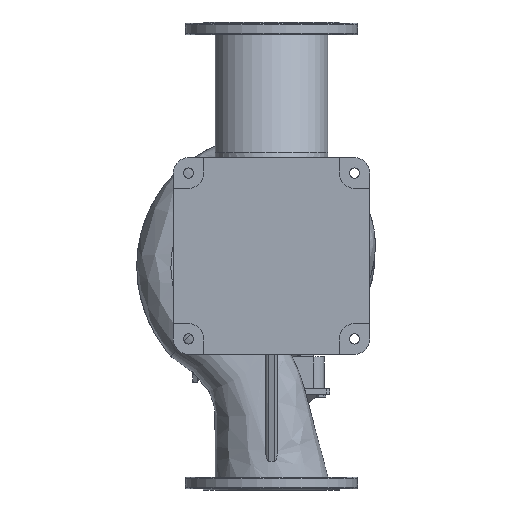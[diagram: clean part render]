
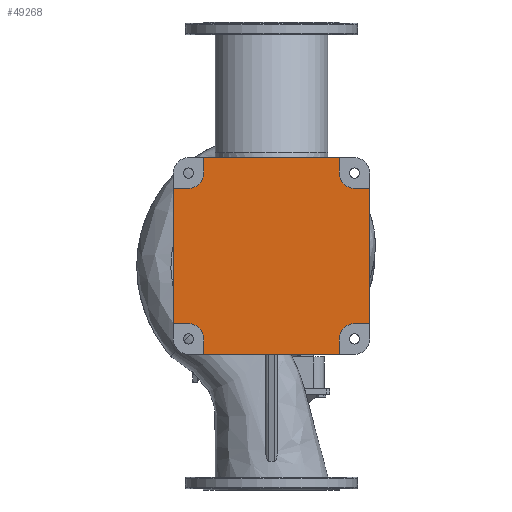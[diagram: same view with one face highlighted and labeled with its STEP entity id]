
A CAD part, front view. The second image highlights one B-rep face of the part: STEP entity #49268.
In plain terms, the highlighted planar face has unit normal (0, -1, 0).
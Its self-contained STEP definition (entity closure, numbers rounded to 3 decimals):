
#39 = CARTESIAN_POINT ( 'NONE',  ( -195., -295., 195. ) ) ;
#340 = DIRECTION ( 'NONE',  ( 0., 0., -1. ) ) ;
#499 = ORIENTED_EDGE ( 'NONE', *, *, #36492, .T. ) ;
#745 = LINE ( 'NONE', #54891, #11259 ) ;
#934 = VERTEX_POINT ( 'NONE', #48178 ) ;
#1391 = CARTESIAN_POINT ( 'NONE',  ( -159., -295., 195. ) ) ;
#1758 = VERTEX_POINT ( 'NONE', #56057 ) ;
#2570 = CARTESIAN_POINT ( 'NONE',  ( -195., -295., -159. ) ) ;
#3009 = EDGE_CURVE ( 'NONE', #41840, #21774, #10824, .T. ) ;
#3875 = CARTESIAN_POINT ( 'NONE',  ( 195., -295., 159. ) ) ;
#4035 = ORIENTED_EDGE ( 'NONE', *, *, #52931, .T. ) ;
#5711 = DIRECTION ( 'NONE',  ( 0., 0., 1. ) ) ;
#6484 = ORIENTED_EDGE ( 'NONE', *, *, #22947, .T. ) ;
#6561 = VECTOR ( 'NONE', #16383, 1000. ) ;
#7406 = VECTOR ( 'NONE', #56355, 1000. ) ;
#7668 = AXIS2_PLACEMENT_3D ( 'NONE', #39, #12871, #66692 ) ;
#8424 = LINE ( 'NONE', #61824, #7406 ) ;
#8876 = VECTOR ( 'NONE', #52955, 1000. ) ;
#9402 = LINE ( 'NONE', #56181, #6561 ) ;
#10091 = LINE ( 'NONE', #3875, #31673 ) ;
#10248 = DIRECTION ( 'NONE',  ( 1., 0., 0. ) ) ;
#10824 = LINE ( 'NONE', #17054, #44365 ) ;
#11245 = CARTESIAN_POINT ( 'NONE',  ( 159., -295., -231. ) ) ;
#11259 = VECTOR ( 'NONE', #340, 1000. ) ;
#11502 = LINE ( 'NONE', #11906, #12051 ) ;
#11906 = CARTESIAN_POINT ( 'NONE',  ( -195., -295., 159. ) ) ;
#12051 = VECTOR ( 'NONE', #66091, 1000. ) ;
#12777 = CARTESIAN_POINT ( 'NONE',  ( -159., -295., -195. ) ) ;
#12871 = DIRECTION ( 'NONE',  ( 0., 1., 0. ) ) ;
#13618 = LINE ( 'NONE', #37398, #16286 ) ;
#14595 = CARTESIAN_POINT ( 'NONE',  ( 159., -295., 195. ) ) ;
#15241 = VERTEX_POINT ( 'NONE', #68410 ) ;
#15699 = ORIENTED_EDGE ( 'NONE', *, *, #46932, .T. ) ;
#16286 = VECTOR ( 'NONE', #61171, 1000. ) ;
#16383 = DIRECTION ( 'NONE',  ( 0., 0., -1. ) ) ;
#16503 = PLANE ( 'NONE',  #29481 ) ;
#16683 = AXIS2_PLACEMENT_3D ( 'NONE', #70964, #46793, #17543 ) ;
#17054 = CARTESIAN_POINT ( 'NONE',  ( 159., -295., 195. ) ) ;
#17543 = DIRECTION ( 'NONE',  ( 0., 0., 1. ) ) ;
#18687 = EDGE_CURVE ( 'NONE', #64090, #71915, #57495, .T. ) ;
#20024 = VERTEX_POINT ( 'NONE', #73127 ) ;
#20859 = DIRECTION ( 'NONE',  ( 1., 0., 0. ) ) ;
#21774 = VERTEX_POINT ( 'NONE', #57305 ) ;
#22272 = VERTEX_POINT ( 'NONE', #58028 ) ;
#22315 = LINE ( 'NONE', #46859, #23065 ) ;
#22725 = DIRECTION ( 'NONE',  ( 0., 1., 0. ) ) ;
#22889 = DIRECTION ( 'NONE',  ( 0., 0., 1. ) ) ;
#22947 = EDGE_CURVE ( 'NONE', #21774, #72008, #33949, .T. ) ;
#23065 = VECTOR ( 'NONE', #10248, 1000. ) ;
#24251 = ORIENTED_EDGE ( 'NONE', *, *, #60638, .T. ) ;
#27628 = VERTEX_POINT ( 'NONE', #1391 ) ;
#28009 = DIRECTION ( 'NONE',  ( -1., 0., 0. ) ) ;
#28025 = EDGE_CURVE ( 'NONE', #30332, #44078, #8424, .T. ) ;
#28863 = ORIENTED_EDGE ( 'NONE', *, *, #59876, .T. ) ;
#29481 = AXIS2_PLACEMENT_3D ( 'NONE', #57842, #22725, #51225 ) ;
#29997 = DIRECTION ( 'NONE',  ( 0., 0., -1. ) ) ;
#30332 = VERTEX_POINT ( 'NONE', #67911 ) ;
#30730 = EDGE_CURVE ( 'NONE', #44078, #32994, #68566, .T. ) ;
#31673 = VECTOR ( 'NONE', #28009, 1000. ) ;
#32668 = EDGE_CURVE ( 'NONE', #15241, #47989, #22315, .T. ) ;
#32994 = VERTEX_POINT ( 'NONE', #58472 ) ;
#33276 = FACE_OUTER_BOUND ( 'NONE', #69984, .T. ) ;
#33752 = ORIENTED_EDGE ( 'NONE', *, *, #52943, .T. ) ;
#33949 = LINE ( 'NONE', #63608, #8876 ) ;
#34498 = CIRCLE ( 'NONE', #59398, 36. ) ;
#34535 = CARTESIAN_POINT ( 'NONE',  ( 195., -295., -195. ) ) ;
#34982 = ORIENTED_EDGE ( 'NONE', *, *, #32668, .T. ) ;
#36225 = ORIENTED_EDGE ( 'NONE', *, *, #52307, .T. ) ;
#36259 = ORIENTED_EDGE ( 'NONE', *, *, #44601, .T. ) ;
#36262 = CARTESIAN_POINT ( 'NONE',  ( -159., -295., 195. ) ) ;
#36492 = EDGE_CURVE ( 'NONE', #934, #64090, #9402, .T. ) ;
#37398 = CARTESIAN_POINT ( 'NONE',  ( 159., -295., -195. ) ) ;
#37970 = VECTOR ( 'NONE', #20859, 1000. ) ;
#38160 = DIRECTION ( 'NONE',  ( 0., 0., 1. ) ) ;
#40345 = EDGE_CURVE ( 'NONE', #60072, #15241, #745, .T. ) ;
#41840 = VERTEX_POINT ( 'NONE', #14595 ) ;
#43520 = CARTESIAN_POINT ( 'NONE',  ( -159., -295., 231. ) ) ;
#44065 = VECTOR ( 'NONE', #38160, 1000. ) ;
#44078 = VERTEX_POINT ( 'NONE', #44807 ) ;
#44365 = VECTOR ( 'NONE', #22889, 1000. ) ;
#44601 = EDGE_CURVE ( 'NONE', #22272, #30332, #34498, .T. ) ;
#44807 = CARTESIAN_POINT ( 'NONE',  ( 231., -295., -159. ) ) ;
#46525 = CARTESIAN_POINT ( 'NONE',  ( -195., -295., -195. ) ) ;
#46793 = DIRECTION ( 'NONE',  ( 0., 1., 0. ) ) ;
#46859 = CARTESIAN_POINT ( 'NONE',  ( 159., -295., -231. ) ) ;
#46932 = EDGE_CURVE ( 'NONE', #27628, #20024, #64918, .T. ) ;
#47989 = VERTEX_POINT ( 'NONE', #11245 ) ;
#48092 = ORIENTED_EDGE ( 'NONE', *, *, #75163, .T. ) ;
#48178 = CARTESIAN_POINT ( 'NONE',  ( -231., -295., 159. ) ) ;
#48303 = ORIENTED_EDGE ( 'NONE', *, *, #18687, .T. ) ;
#49268 = ADVANCED_FACE ( 'NONE', ( #33276 ), #16503, .F. ) ;
#50224 = CARTESIAN_POINT ( 'NONE',  ( 231., -295., 159. ) ) ;
#50302 = CIRCLE ( 'NONE', #16683, 36. ) ;
#50646 = ORIENTED_EDGE ( 'NONE', *, *, #3009, .T. ) ;
#51225 = DIRECTION ( 'NONE',  ( 1., 0., 0. ) ) ;
#52307 = EDGE_CURVE ( 'NONE', #20024, #934, #11502, .T. ) ;
#52931 = EDGE_CURVE ( 'NONE', #72008, #27628, #59271, .T. ) ;
#52943 = EDGE_CURVE ( 'NONE', #1758, #41840, #50302, .T. ) ;
#52955 = DIRECTION ( 'NONE',  ( -1., 0., 0. ) ) ;
#54891 = CARTESIAN_POINT ( 'NONE',  ( -159., -295., -195. ) ) ;
#54898 = ORIENTED_EDGE ( 'NONE', *, *, #28025, .T. ) ;
#56057 = CARTESIAN_POINT ( 'NONE',  ( 195., -295., 159. ) ) ;
#56181 = CARTESIAN_POINT ( 'NONE',  ( -231., -295., -159. ) ) ;
#56355 = DIRECTION ( 'NONE',  ( 1., 0., 0. ) ) ;
#57305 = CARTESIAN_POINT ( 'NONE',  ( 159., -295., 231. ) ) ;
#57495 = LINE ( 'NONE', #2570, #37970 ) ;
#57842 = CARTESIAN_POINT ( 'NONE',  ( -195., -295., -195. ) ) ;
#58028 = CARTESIAN_POINT ( 'NONE',  ( 159., -295., -195. ) ) ;
#58472 = CARTESIAN_POINT ( 'NONE',  ( 231., -295., 159. ) ) ;
#59271 = LINE ( 'NONE', #36262, #61489 ) ;
#59398 = AXIS2_PLACEMENT_3D ( 'NONE', #34535, #77052, #5711 ) ;
#59876 = EDGE_CURVE ( 'NONE', #32994, #1758, #10091, .T. ) ;
#60072 = VERTEX_POINT ( 'NONE', #12777 ) ;
#60357 = ORIENTED_EDGE ( 'NONE', *, *, #40345, .T. ) ;
#60638 = EDGE_CURVE ( 'NONE', #71915, #60072, #75211, .T. ) ;
#60671 = CARTESIAN_POINT ( 'NONE',  ( -195., -295., -159. ) ) ;
#61171 = DIRECTION ( 'NONE',  ( 0., 0., 1. ) ) ;
#61489 = VECTOR ( 'NONE', #29997, 1000. ) ;
#61824 = CARTESIAN_POINT ( 'NONE',  ( 195., -295., -159. ) ) ;
#63608 = CARTESIAN_POINT ( 'NONE',  ( -159., -295., 231. ) ) ;
#64090 = VERTEX_POINT ( 'NONE', #70493 ) ;
#64918 = CIRCLE ( 'NONE', #7668, 36. ) ;
#66091 = DIRECTION ( 'NONE',  ( -1., 0., 0. ) ) ;
#66692 = DIRECTION ( 'NONE',  ( 0., 0., 1. ) ) ;
#67911 = CARTESIAN_POINT ( 'NONE',  ( 195., -295., -159. ) ) ;
#68410 = CARTESIAN_POINT ( 'NONE',  ( -159., -295., -231. ) ) ;
#68566 = LINE ( 'NONE', #50224, #44065 ) ;
#69189 = DIRECTION ( 'NONE',  ( 0., 1., 0. ) ) ;
#69938 = DIRECTION ( 'NONE',  ( 0., 0., 1. ) ) ;
#69984 = EDGE_LOOP ( 'NONE', ( #24251, #60357, #34982, #48092, #36259, #54898, #76163, #28863, #33752, #50646, #6484, #4035, #15699, #36225, #499, #48303 ) ) ;
#70245 = AXIS2_PLACEMENT_3D ( 'NONE', #46525, #69189, #69938 ) ;
#70493 = CARTESIAN_POINT ( 'NONE',  ( -231., -295., -159. ) ) ;
#70964 = CARTESIAN_POINT ( 'NONE',  ( 195., -295., 195. ) ) ;
#71915 = VERTEX_POINT ( 'NONE', #60671 ) ;
#72008 = VERTEX_POINT ( 'NONE', #43520 ) ;
#73127 = CARTESIAN_POINT ( 'NONE',  ( -195., -295., 159. ) ) ;
#75163 = EDGE_CURVE ( 'NONE', #47989, #22272, #13618, .T. ) ;
#75211 = CIRCLE ( 'NONE', #70245, 36. ) ;
#76163 = ORIENTED_EDGE ( 'NONE', *, *, #30730, .T. ) ;
#77052 = DIRECTION ( 'NONE',  ( 0., 1., 0. ) ) ;
